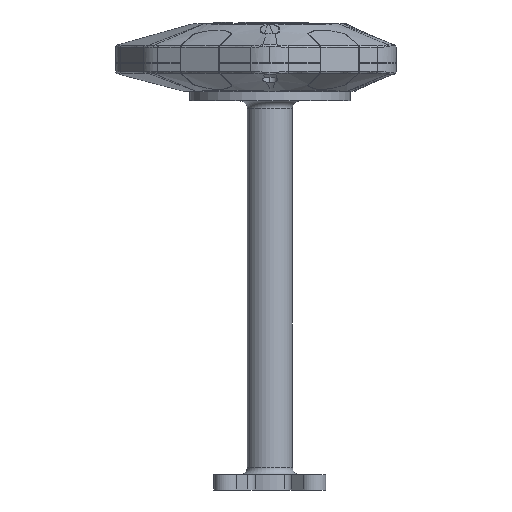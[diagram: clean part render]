
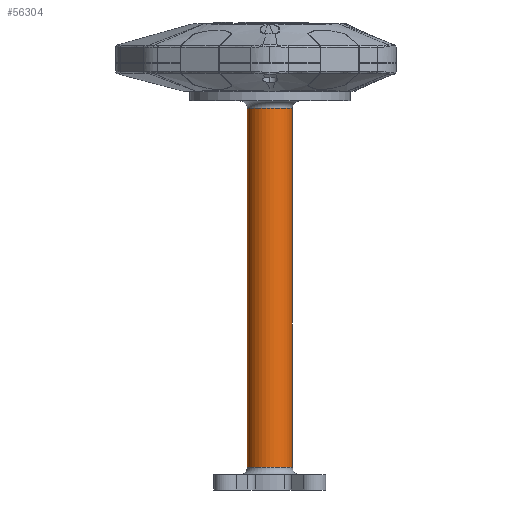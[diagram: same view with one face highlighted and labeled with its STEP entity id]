
A CAD part, left-side view. The second image highlights one B-rep face of the part: STEP entity #56304.
In plain terms, the highlighted cylindrical face has radius 6 mm (diameter 12 mm), a partial arc.
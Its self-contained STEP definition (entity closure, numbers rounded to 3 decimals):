
#727 = DIRECTION ( 'NONE',  ( 0., 0., 1. ) ) ;
#2892 = DIRECTION ( 'NONE',  ( -1., 0., 0. ) ) ;
#3454 = DIRECTION ( 'NONE',  ( 0., 0., 1. ) ) ;
#4359 = AXIS2_PLACEMENT_3D ( 'NONE', #9410, #27094, #44953 ) ;
#5086 = EDGE_CURVE ( 'NONE', #13213, #36677, #29489, .T. ) ;
#5278 = ORIENTED_EDGE ( 'NONE', *, *, #5086, .T. ) ;
#6495 = DIRECTION ( 'NONE',  ( 1., 0., 0. ) ) ;
#6680 = ORIENTED_EDGE ( 'NONE', *, *, #35056, .F. ) ;
#8012 = DIRECTION ( 'NONE',  ( 0., 0., 1. ) ) ;
#9115 = CARTESIAN_POINT ( 'NONE',  ( 42.591, 33.971, -107.9 ) ) ;
#9410 = CARTESIAN_POINT ( 'NONE',  ( 36.591, 33.971, -10.9 ) ) ;
#9926 = CARTESIAN_POINT ( 'NONE',  ( 42.591, 33.971, -105.9 ) ) ;
#10832 = DIRECTION ( 'NONE',  ( 0., 0., 1. ) ) ;
#11743 = AXIS2_PLACEMENT_3D ( 'NONE', #50140, #10832, #6495 ) ;
#13213 = VERTEX_POINT ( 'NONE', #36228 ) ;
#16920 = EDGE_CURVE ( 'NONE', #47396, #13213, #49811, .T. ) ;
#21725 = ORIENTED_EDGE ( 'NONE', *, *, #16920, .T. ) ;
#24941 = AXIS2_PLACEMENT_3D ( 'NONE', #38171, #3454, #2892 ) ;
#27094 = DIRECTION ( 'NONE',  ( 0., 0., -1. ) ) ;
#27461 = VERTEX_POINT ( 'NONE', #32057 ) ;
#28562 = VECTOR ( 'NONE', #8012, 1000. ) ;
#29489 = LINE ( 'NONE', #38710, #28562 ) ;
#32057 = CARTESIAN_POINT ( 'NONE',  ( 42.591, 33.971, -10.9 ) ) ;
#33960 = VECTOR ( 'NONE', #727, 1000. ) ;
#34813 = ORIENTED_EDGE ( 'NONE', *, *, #42938, .T. ) ;
#35056 = EDGE_CURVE ( 'NONE', #47396, #27461, #52758, .T. ) ;
#36228 = CARTESIAN_POINT ( 'NONE',  ( 30.591, 33.971, -105.9 ) ) ;
#36677 = VERTEX_POINT ( 'NONE', #40623 ) ;
#38171 = CARTESIAN_POINT ( 'NONE',  ( 36.591, 33.971, -105.9 ) ) ;
#38184 = EDGE_LOOP ( 'NONE', ( #21725, #5278, #34813, #6680 ) ) ;
#38710 = CARTESIAN_POINT ( 'NONE',  ( 30.591, 33.971, -107.9 ) ) ;
#40623 = CARTESIAN_POINT ( 'NONE',  ( 30.591, 33.971, -10.9 ) ) ;
#42938 = EDGE_CURVE ( 'NONE', #36677, #27461, #52347, .T. ) ;
#44953 = DIRECTION ( 'NONE',  ( -1., 0., 0. ) ) ;
#46104 = FACE_OUTER_BOUND ( 'NONE', #38184, .T. ) ;
#46384 = CYLINDRICAL_SURFACE ( 'NONE', #11743, 6. ) ;
#47396 = VERTEX_POINT ( 'NONE', #9926 ) ;
#49811 = CIRCLE ( 'NONE', #24941, 6. ) ;
#50140 = CARTESIAN_POINT ( 'NONE',  ( 36.591, 33.971, -107.9 ) ) ;
#52347 = CIRCLE ( 'NONE', #4359, 6. ) ;
#52758 = LINE ( 'NONE', #9115, #33960 ) ;
#56304 = ADVANCED_FACE ( 'NONE', ( #46104 ), #46384, .T. ) ;
